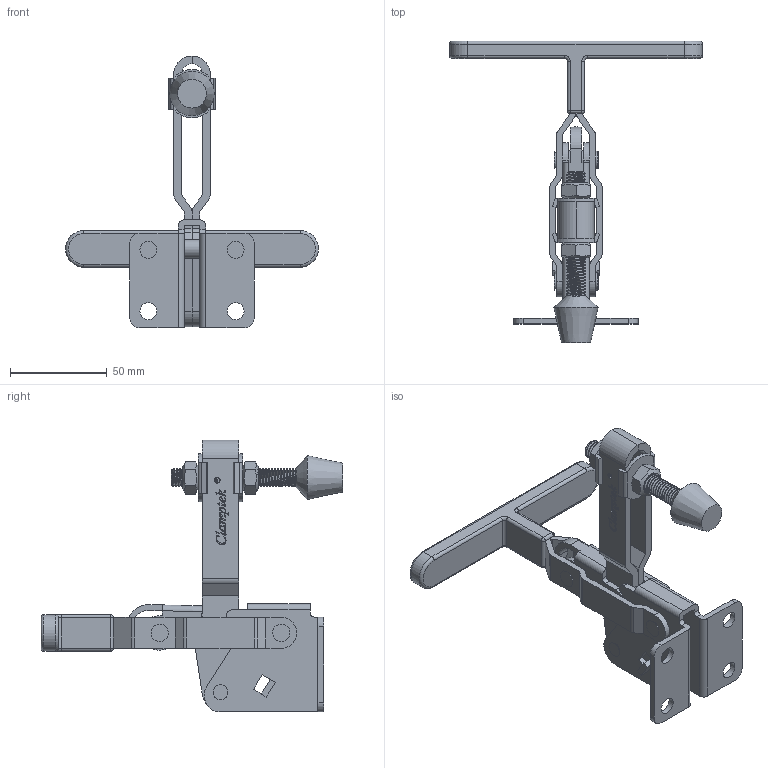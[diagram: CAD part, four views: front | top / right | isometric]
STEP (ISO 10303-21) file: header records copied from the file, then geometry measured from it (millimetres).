
FILE_DESCRIPTION(/* description */ ('STEP AP203'),/* implementation_level */ '2;1');
FILE_NAME(/* name */ 'D:\Vault_2016\Projekty\Clamptek\STRONA\Vertical toggle clamp\CH-12285\CH-12285_ZAMKNIETY.stp',/* time_stamp */ '2019-01-16T17:12:03+01:00',/* author */ ('Łukasz'),/* organization */ ('Î¢ÈíÖÐ¹ú'),/* preprocessor_version */ 'ST-DEVELOPER v17.2',/* originating_system */ 'Autodesk Inventor 2019',/* authorisation */ '');
FILE_SCHEMA (('AUTOMOTIVE_DESIGN { 1 0 10303 214 3 1 1 }'));
Products named in the file (12): CH-12285; CH-12285-02 UBAR; CH-12265-04 CONNECTING-PLATE; CH-12265-01 FLANGED BASE; CH-12265-09; CH-12265-06; CH-FC-38312 NUT; CH-12265-05; CH-FC-38312 SPINDLE SUPPLIED; CH-FW-380; CH-12265-08; T-HANDLE
Assembly tree (17 placements, depth 2):
  CH-12285
    CH-12265-05  x2
    CH-12285-02 UBAR
    CH-12265-04 CONNECTING-PLATE
    CH-12265-06  x2
    CH-FC-38312 NUT  x2
    CH-FW-380  x2
    CH-12265-08  x2
    CH-12265-01 FLANGED BASE
    CH-12265-09  x2
    CH-FC-38312 SPINDLE SUPPLIED
    T-HANDLE
Bounding box: 131 x 156.47 x 140.9 mm (x, y, z)
Volume: 104652.8 mm3; surface area: 67867.3 mm2
Topology: 18 solids, 19 shells, 755 faces, 2107 edges, 1414 vertices
Faces by surface type: plane 322, bspline 184, cylinder 176, cone 61, torus 8, sphere 4
Full cylindrical faces by diameter (mm): 2.482 x1, 2.887 x1, 6.4 x16, 8.7 x4, 9 x4, 9.5 x52, 9.6 x4, 9.8 x2, 13.856 x1
Entity records: 52466 total; most frequent: CARTESIAN_POINT 35425, ORIENTED_EDGE 3812, DIRECTION 2843, EDGE_CURVE 1906, VERTEX_POINT 1276, LINE 1037, VECTOR 1037, AXIS2_PLACEMENT_3D 903
